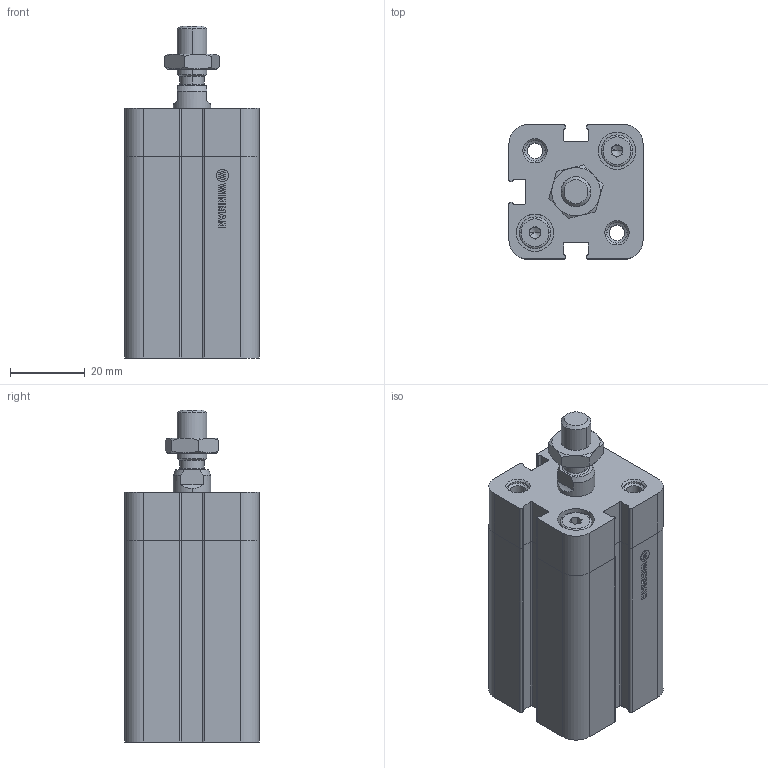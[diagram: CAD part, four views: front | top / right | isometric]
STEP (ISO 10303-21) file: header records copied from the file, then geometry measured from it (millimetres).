
FILE_DESCRIPTION (( 'STEP AP214' ), '1' );
FILE_NAME ('WINC-020-0030-ML (MDMY).STEP', '2017-12-21T08:53:14', ( 'Hidtek' ), ( '' ), 'SwSTEP 2.0', 'SolidWorks 2016', '' );
FILE_SCHEMA (( 'AUTOMOTIVE_DESIGN' ));
Length unit declared in the file: millimetre
Products named in the file (4): WINC-020-0030-ML (MDMY); Group3^WINC-020-0030-ML (MDMY); Group2^WINC-020-0030-ML (MDMY); Group1^WINC-020-0030-ML (MDMY)
Assembly tree (3 placements, depth 2):
  WINC-020-0030-ML (MDMY)
    Group1^WINC-020-0030-ML (MDMY)
    Group2^WINC-020-0030-ML (MDMY)
    Group3^WINC-020-0030-ML (MDMY)
Bounding box: 36 x 36 x 89.1 mm (x, y, z)
Volume: 70790.1 mm3; surface area: 26633.5 mm2
Topology: 6 solids, 6 shells, 375 faces, 950 edges, 604 vertices
Faces by surface type: plane 193, cylinder 106, cone 54, bspline 14, torus 8
Entity records: 13032 total; most frequent: CARTESIAN_POINT 2619, DIRECTION 1902, ORIENTED_EDGE 1892, EDGE_CURVE 946, AXIS2_PLACEMENT_3D 647, VECTOR 608, LINE 608, VERTEX_POINT 604
